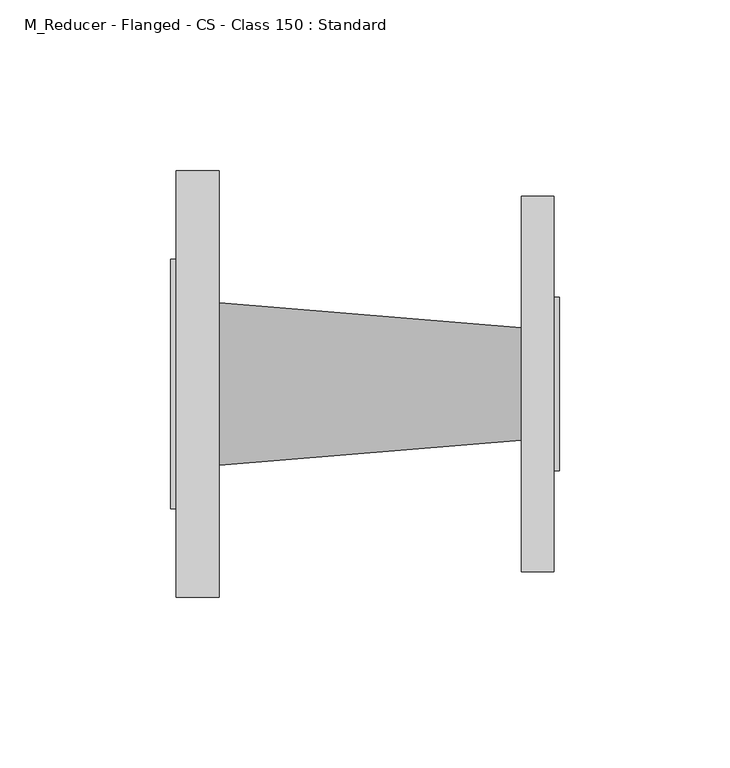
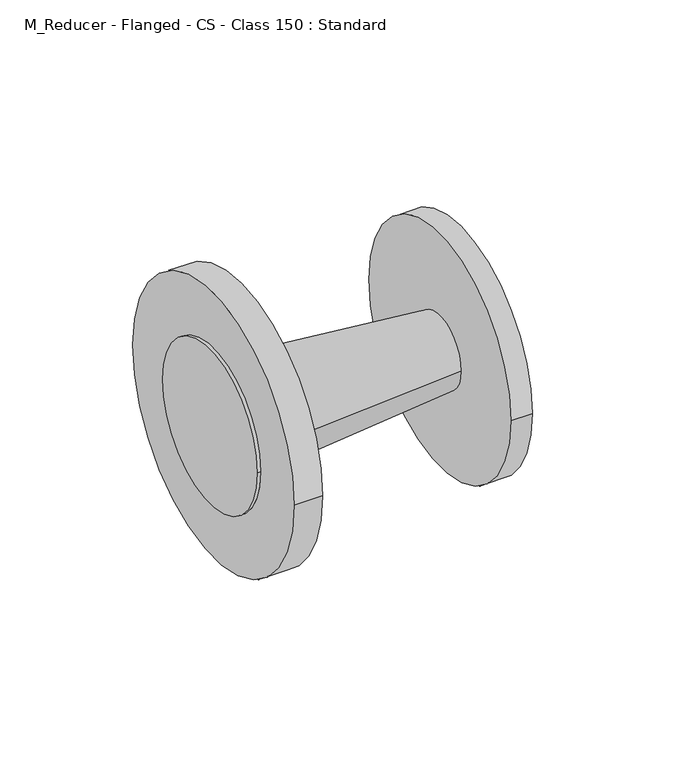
"""IFC4 building model written with IfcOpenShell, lengths in millimetres: pipe fitting geometry, M_Reducer - Flanged - CS - Class 150 : Standard."""

from ifc_helpers import new_model, si_unit, frame, origin, place, context, project, spatial, polyline, circle_curve, source, transform, mapped, element, save
from ifc_brep_helpers import plane_surface, cylinder_surface, revolved_surface, advanced_brep


def m_reducer_flanged_cs_class_150_standard_8338f9e4(model_context):
    return source(origin(), model_context, "Body", "AdvancedBrep", [
        advanced_brep(
        [(14.2875, -62.5, 0.0), (14.2875, 62.5, 0.0), (14.2875, 23.8, 0.0), (14.2875, -23.8, 0.0), (1.5875, -62.5, 0.0), (1.5875, 62.5, 0.0), (1.5875, -36.5, 0.0), (1.5875, 36.5, 0.0), (102.8125, 16.5, 0.0), (102.8125, -16.5, 0.0), (112.4125, -55.0, 0.0), (112.4125, 55.0, 0.0), (112.4125, 25.4, 0.0), (112.4125, -25.4, 0.0), (102.8125, -55.0, 0.0), (102.8125, 55.0, 0.0), (0.0, -36.5, 0.0), (0.0, 36.5, 0.0), (114.0, -25.4, 0.0), (114.0, 25.4, 0.0)],
        [
            (0, 1, circle_curve(frame((14.2875, 0.0, 0.0), z_axis=(1.0, 0.0, 0.0), x_axis=(0.0, 1.0, 0.0)), 62.5)),
            (1, 0, circle_curve(frame((14.2875, 0.0, 0.0), z_axis=(1.0, 0.0, 0.0), x_axis=(0.0, 1.0, 0.0)), 62.5)),
            (2, 3, circle_curve(frame((14.2875, 0.0, 0.0), z_axis=(-1.0, 0.0, 0.0), x_axis=(0.0, -1.0, 0.0)), 23.8)),
            (3, 2, circle_curve(frame((14.2875, 0.0, 0.0), z_axis=(-1.0, 0.0, 0.0), x_axis=(0.0, 1.0, 0.0)), 23.8)),
            (4, 5, circle_curve(frame((1.5875, 0.0, 0.0), z_axis=(-1.0, 0.0, 0.0), x_axis=(0.0, 1.0, 0.0)), 62.5)),
            (5, 4, circle_curve(frame((1.5875, 0.0, 0.0), z_axis=(-1.0, 0.0, 0.0), x_axis=(0.0, 1.0, 0.0)), 62.5)),
            (6, 7, circle_curve(frame((1.5875, 0.0, 0.0), z_axis=(1.0, 0.0, 0.0), x_axis=(0.0, 1.0, 0.0)), 36.5)),
            (7, 6, circle_curve(frame((1.5875, 0.0, 0.0), z_axis=(1.0, 0.0, 0.0), x_axis=(0.0, 1.0, 0.0)), 36.5)),
            (0, 4),
            (5, 1),
            (2, 8),
            (8, 9, circle_curve(frame((102.8125, 0.0, 0.0), z_axis=(-1.0, 0.0, 0.0), x_axis=(0.0, -1.0, 0.0)), 16.5)),
            (9, 3),
            (9, 8, circle_curve(frame((102.8125, 0.0, 0.0), z_axis=(-1.0, 0.0, 0.0), x_axis=(0.0, 1.0, 0.0)), 16.5)),
            (10, 11, circle_curve(frame((112.4125, 0.0, 0.0), z_axis=(1.0, 0.0, 0.0), x_axis=(0.0, 1.0, 0.0)), 55.0)),
            (11, 10, circle_curve(frame((112.4125, 0.0, 0.0), z_axis=(1.0, 0.0, 0.0), x_axis=(0.0, 1.0, 0.0)), 55.0)),
            (12, 13, circle_curve(frame((112.4125, 0.0, 0.0), z_axis=(-1.0, 0.0, 0.0), x_axis=(0.0, 1.0, 0.0)), 25.4)),
            (13, 12, circle_curve(frame((112.4125, 0.0, 0.0), z_axis=(-1.0, 0.0, 0.0), x_axis=(0.0, 1.0, 0.0)), 25.4)),
            (14, 15, circle_curve(frame((102.8125, 0.0, 0.0), z_axis=(-1.0, 0.0, 0.0), x_axis=(0.0, 1.0, 0.0)), 55.0)),
            (15, 14, circle_curve(frame((102.8125, 0.0, 0.0), z_axis=(-1.0, 0.0, 0.0), x_axis=(0.0, 1.0, 0.0)), 55.0)),
            (10, 14),
            (15, 11),
            (16, 17, circle_curve(frame((0.0, 0.0, 0.0), z_axis=(-1.0, 0.0, 0.0), x_axis=(0.0, 1.0, 0.0)), 36.5)),
            (17, 16, circle_curve(frame((0.0, 0.0, 0.0), z_axis=(-1.0, 0.0, 0.0), x_axis=(0.0, 1.0, 0.0)), 36.5)),
            (17, 7),
            (6, 16),
            (18, 19, circle_curve(frame((114.0, 0.0, 0.0), z_axis=(1.0, 0.0, 0.0), x_axis=(0.0, 1.0, 0.0)), 25.4)),
            (19, 18, circle_curve(frame((114.0, 0.0, 0.0), z_axis=(1.0, 0.0, 0.0), x_axis=(0.0, 1.0, 0.0)), 25.4)),
            (18, 13),
            (12, 19),
        ],
        [
            plane_surface(frame((14.2875, 62.5, 0.0), z_axis=(1.0, 0.0, 0.0), x_axis=(0.0, 0.0, 1.0))),
            plane_surface(frame((1.5875, 62.5, 0.0), z_axis=(-1.0, 0.0, 0.0), x_axis=(0.0, 0.0, -1.0))),
            cylinder_surface(frame((1.5875, 0.0, 0.0), z_axis=(1.0, 0.0, 0.0), x_axis=(0.0, 1.0, 0.0)), 62.5),
            revolved_surface(polyline([(102.81249999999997, 16.499999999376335, 0.0), (14.287500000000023, 23.8, 0.0)]), (302.9032534, 0.0, 0.0), (-1.0, 0.0, 0.0)),
            plane_surface(frame((112.4125, 55.0, 0.0), z_axis=(1.0, 0.0, 0.0), x_axis=(0.0, 0.0, 1.0))),
            plane_surface(frame((102.8125, 55.0, 0.0), z_axis=(-1.0, 0.0, 0.0), x_axis=(0.0, 0.0, -1.0))),
            cylinder_surface(frame((102.8125, 0.0, 0.0), z_axis=(1.0, 0.0, 0.0), x_axis=(0.0, 1.0, 0.0)), 55.0),
            plane_surface(frame((0.0, 36.5, 0.0), z_axis=(-1.0, 0.0, 0.0), x_axis=(0.0, 0.0, -1.0))),
            cylinder_surface(frame((0.0, 0.0, 0.0), z_axis=(1.0, 0.0, 0.0), x_axis=(0.0, 1.0, 0.0)), 36.5),
            plane_surface(frame((114.0, 25.4, 0.0), z_axis=(1.0, 0.0, 0.0), x_axis=(0.0, 0.0, 1.0))),
            cylinder_surface(frame((112.4125, 0.0, 0.0), z_axis=(1.0, 0.0, 0.0), x_axis=(0.0, 1.0, 0.0)), 25.4),
        ],
        [
            (0, [[1, 2], [3, 4]]),
            (1, [[5, 6], [7, 8]]),
            (2, [[-1, 9, -6, 10]]),
            (2, [[-2, -10, -5, -9]]),
            (3, [[11, 12, 13, -3]]),
            (3, [[-11, -4, -13, 14]]),
            (4, [[15, 16], [17, 18]]),
            (5, [[19, 20], [-12, -14]]),
            (6, [[-15, 21, -20, 22]]),
            (6, [[-16, -22, -19, -21]]),
            (7, [[23, 24]]),
            (8, [[-24, 25, -7, 26]]),
            (8, [[-23, -26, -8, -25]]),
            (9, [[27, 28]]),
            (10, [[-27, 29, -17, 30]]),
            (10, [[-28, -30, -18, -29]]),
        ],
    ),
    ])


if __name__ == "__main__":
    model = new_model("IFC4")
    model_context = context("Model", 3, world=origin())
    ifc_project = project(units=[si_unit("LENGTHUNIT", "METRE", prefix="MILLI")], contexts=[model_context])
    site = spatial("IfcSite", under=ifc_project)
    building = spatial("IfcBuilding", under=site)
    placement = place(None, origin())
    m_reducer_flanged_cs_class_150_standard_shape = m_reducer_flanged_cs_class_150_standard_8338f9e4(model_context)
    element("IfcPipeFitting", 1, ObjectType="M_Reducer - Flanged - CS - Class 150 : Standard", at=placement, inside=building, context=model_context, shape_type="MappedRepresentation", body=[
        mapped(m_reducer_flanged_cs_class_150_standard_shape, transform((0.0, 0.0, 0.0), x_axis=(1.0, 0.0, 0.0), y_axis=(0.0, 1.0, 0.0), z_axis=(0.0, 0.0, 1.0))),
    ])
    save(model, "model.ifc")
